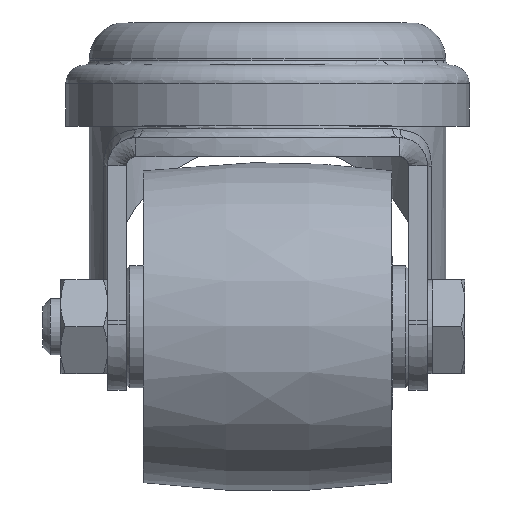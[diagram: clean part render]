
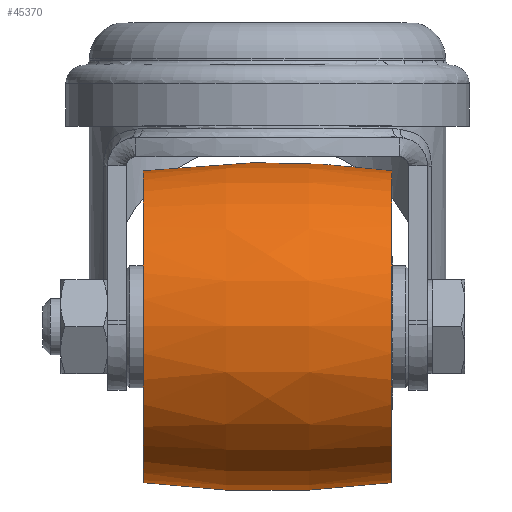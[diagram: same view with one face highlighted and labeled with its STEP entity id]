
A CAD part, top view. The second image highlights one B-rep face of the part: STEP entity #45370.
In plain terms, the highlighted free-form (B-spline) face has degree [3, 3] with [4, 7] control points.
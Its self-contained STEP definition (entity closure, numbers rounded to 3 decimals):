
#1249 = CIRCLE ( 'NONE', #39249, 16.618 ) ;
#9014 = CARTESIAN_POINT ( 'NONE',  ( 13.25, 0., 0. ) ) ;
#9015 = DIRECTION ( 'NONE',  ( 1., 0., 0. ) ) ;
#9016 = DIRECTION ( 'NONE',  ( 0., 0., -1. ) ) ;
#12137 = EDGE_LOOP ( 'NONE', ( #14025 ) ) ;
#12148 = EDGE_LOOP ( 'NONE', ( #14325 ) ) ;
#13779 = CARTESIAN_POINT ( 'NONE',  ( -13.25, 0., 0. ) ) ;
#13793 = DIRECTION ( 'NONE',  ( 1., 0., 0. ) ) ;
#13795 = DIRECTION ( 'NONE',  ( 0., 0., -1. ) ) ;
#14025 = ORIENTED_EDGE ( 'NONE', *, *, #20197, .F. ) ;
#14325 = ORIENTED_EDGE ( 'NONE', *, *, #46222, .T. ) ;
#17365 = VERTEX_POINT ( 'NONE', #17366 ) ;
#17366 = CARTESIAN_POINT ( 'NONE',  ( 13.25, 0., -16.618 ) ) ;
#17465 = VERTEX_POINT ( 'NONE', #17466 ) ;
#17466 = CARTESIAN_POINT ( 'NONE',  ( -13.25, 0., -16.618 ) ) ;
#20197 = EDGE_CURVE ( 'NONE', #17365, #17365, #1249, .T. ) ;
#22810 = CARTESIAN_POINT ( 'NONE',  ( -13.25, -16.618, 0. ) ) ;
#22814 = CARTESIAN_POINT ( 'NONE',  ( -13.25, -16.618, 33.237 ) ) ;
#22821 = CARTESIAN_POINT ( 'NONE',  ( -13.25, 16.618, 0. ) ) ;
#22822 = CARTESIAN_POINT ( 'NONE',  ( -13.25, 16.618, 33.237 ) ) ;
#22823 = CARTESIAN_POINT ( 'NONE',  ( -13.25, -16.618, -33.237 ) ) ;
#22824 = CARTESIAN_POINT ( 'NONE',  ( -13.25, 16.618, -33.237 ) ) ;
#22825 = CARTESIAN_POINT ( 'NONE',  ( -13.25, 16.618, 0. ) ) ;
#22826 = CARTESIAN_POINT ( 'NONE',  ( -4.443, 17.796, 0. ) ) ;
#22827 = CARTESIAN_POINT ( 'NONE',  ( -4.443, 17.796, 35.591 ) ) ;
#22828 = CARTESIAN_POINT ( 'NONE',  ( -4.443, -17.796, 35.591 ) ) ;
#22829 = CARTESIAN_POINT ( 'NONE',  ( -4.443, -17.796, 0. ) ) ;
#22830 = CARTESIAN_POINT ( 'NONE',  ( -4.443, -17.796, -35.591 ) ) ;
#22831 = CARTESIAN_POINT ( 'NONE',  ( -4.443, 17.796, -35.591 ) ) ;
#22832 = CARTESIAN_POINT ( 'NONE',  ( -4.443, 17.796, 0. ) ) ;
#22833 = CARTESIAN_POINT ( 'NONE',  ( 4.443, 17.796, 0. ) ) ;
#22834 = CARTESIAN_POINT ( 'NONE',  ( 4.443, 17.796, 35.591 ) ) ;
#22835 = CARTESIAN_POINT ( 'NONE',  ( 4.443, -17.796, 35.591 ) ) ;
#22836 = CARTESIAN_POINT ( 'NONE',  ( 4.443, -17.796, 0. ) ) ;
#22837 = CARTESIAN_POINT ( 'NONE',  ( 4.443, -17.796, -35.591 ) ) ;
#22838 = CARTESIAN_POINT ( 'NONE',  ( 4.443, 17.796, -35.591 ) ) ;
#22839 = CARTESIAN_POINT ( 'NONE',  ( 4.443, 17.796, 0. ) ) ;
#22840 = CARTESIAN_POINT ( 'NONE',  ( 13.25, 16.618, 0. ) ) ;
#22841 = CARTESIAN_POINT ( 'NONE',  ( 13.25, 16.618, 33.237 ) ) ;
#22842 = CARTESIAN_POINT ( 'NONE',  ( 13.25, -16.618, 33.237 ) ) ;
#22843 = CARTESIAN_POINT ( 'NONE',  ( 13.25, -16.618, 0. ) ) ;
#22844 = CARTESIAN_POINT ( 'NONE',  ( 13.25, -16.618, -33.237 ) ) ;
#22845 = CARTESIAN_POINT ( 'NONE',  ( 13.25, 16.618, -33.237 ) ) ;
#22846 = CARTESIAN_POINT ( 'NONE',  ( 13.25, 16.618, 0. ) ) ;
#26527 = CIRCLE ( 'NONE', #46101, 16.618 ) ;
#31406 = FACE_OUTER_BOUND ( 'NONE', #12148, .T. ) ;
#31410 = FACE_OUTER_BOUND ( 'NONE', #12137, .T. ) ;
#39249 = AXIS2_PLACEMENT_3D ( 'NONE', #9014, #9015, #9016 ) ;
#45370 = ADVANCED_FACE ( 'NONE', ( #31410, #31406 ), #46711, .F. ) ;
#46101 = AXIS2_PLACEMENT_3D ( 'NONE', #13779, #13793, #13795 ) ;
#46222 = EDGE_CURVE ( 'NONE', #17465, #17465, #26527, .T. ) ;
#46711 =( BOUNDED_SURFACE ( )  B_SPLINE_SURFACE ( 3, 3, ( 
 ( #22821, #22822, #22814, #22810, #22823, #22824, #22825 ),
 ( #22826, #22827, #22828, #22829, #22830, #22831, #22832 ),
 ( #22833, #22834, #22835, #22836, #22837, #22838, #22839 ),
 ( #22840, #22841, #22842, #22843, #22844, #22845, #22846 ) ),
 .UNSPECIFIED., .F., .F., .F. ) 
 B_SPLINE_SURFACE_WITH_KNOTS ( ( 4, 4 ),
 ( 4, 3, 4 ),
 ( 0.019, 0.981 ),
 ( 0., 0.5, 1. ),
 .UNSPECIFIED. ) 
 GEOMETRIC_REPRESENTATION_ITEM ( )  RATIONAL_B_SPLINE_SURFACE ( (
 ( 1., 0.333, 0.333, 1., 0.333, 0.333, 1.),
 ( 0.994, 0.331, 0.331, 0.994, 0.331, 0.331, 0.994),
 ( 0.994, 0.331, 0.331, 0.994, 0.331, 0.331, 0.994),
 ( 1., 0.333, 0.333, 1., 0.333, 0.333, 1.) ) ) 
 REPRESENTATION_ITEM ( '' )  SURFACE ( )  );
